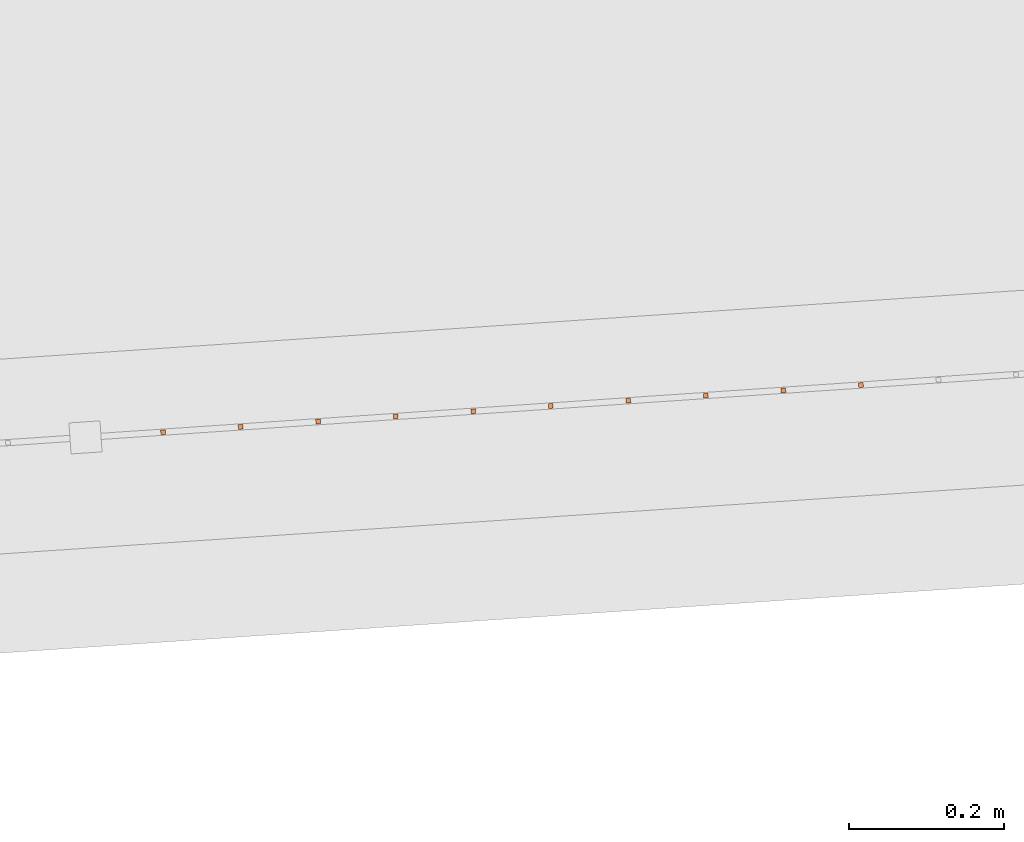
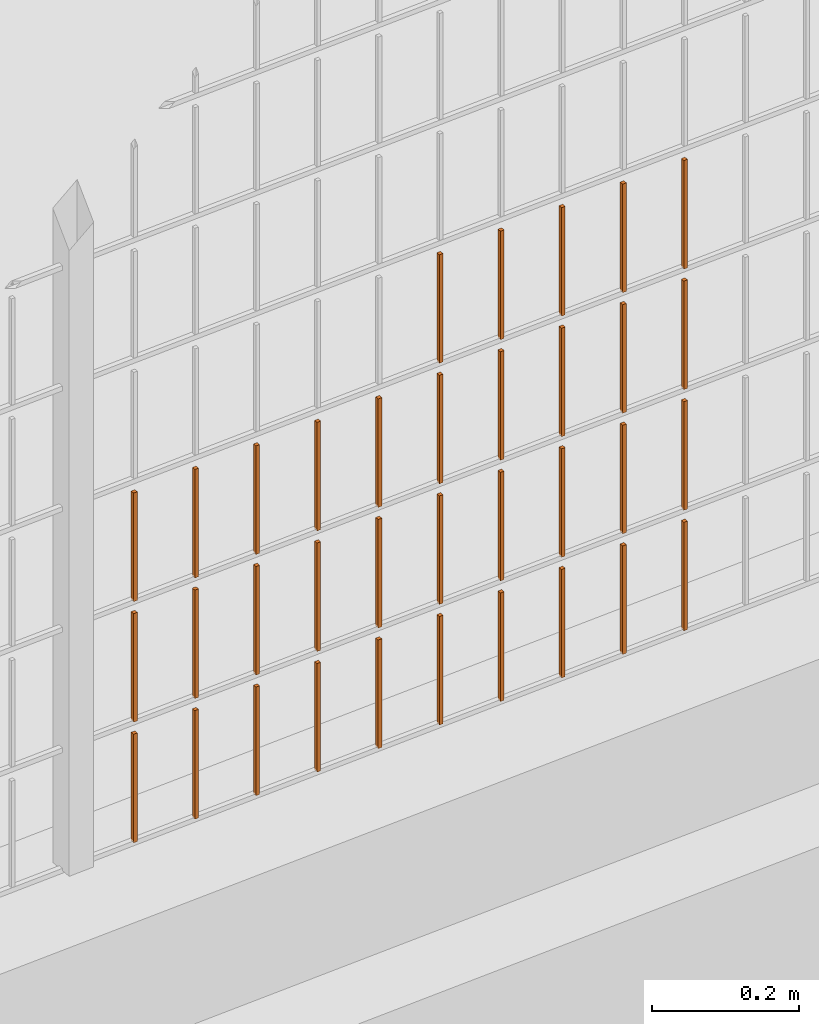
# One storey, part 292 of 1809: 35 proxies, 1 element without a shape of its own.
"""IFC2X3 building model written with IfcOpenShell, lengths in millimetres."""

from ifc_helpers import new_model, entity, si_unit, converted_unit, derived_unit, money_unit, direction, frame, origin_with_axes, place, context, subcontext, project, spatial, faceted_brep, source, transform, mapped, material, type_object, element, aggregate, save


model = new_model("IFC2X3")

# Units and contexts
model_context = context("Model", 3, precision=0.01, world=origin_with_axes(), true_north=direction((0.0, 1.0)))
body_context = subcontext(model_context, "Body", "Model", "MODEL_VIEW")
ifc_project = project(units=[si_unit("LENGTHUNIT", "METRE", prefix="MILLI"), si_unit("AREAUNIT", "SQUARE_METRE"), si_unit("VOLUMEUNIT", "CUBIC_METRE"), converted_unit("PLANEANGLEUNIT", "DEGREE", entity("IfcPlaneAngleMeasure", 0.0174532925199), si_unit("PLANEANGLEUNIT", "RADIAN"), dimensions=[0, 0, 0, 0, 0, 0, 0]), si_unit("SOLIDANGLEUNIT", "STERADIAN"), money_unit("EUR"), converted_unit("TIMEUNIT", "Year", entity("IfcTimeMeasure", 31556926.0), si_unit("TIMEUNIT", "SECOND"), dimensions=[0, 0, 1, 0, 0, 0, 0]), si_unit("MASSUNIT", "GRAM", prefix="KILO"), si_unit("THERMODYNAMICTEMPERATUREUNIT", "DEGREE_CELSIUS"), si_unit("LUMINOUSINTENSITYUNIT", "LUMEN"), si_unit("ENERGYUNIT", "JOULE", prefix="MEGA"), derived_unit("THERMALCONDUCTANCEUNIT", [(si_unit("POWERUNIT", "WATT"), 1), (si_unit("LENGTHUNIT", "METRE"), -1), (si_unit("THERMODYNAMICTEMPERATUREUNIT", "KELVIN"), -1)]), derived_unit("SPECIFICHEATCAPACITYUNIT", [(si_unit("ENERGYUNIT", "JOULE"), 1), (si_unit("MASSUNIT", "GRAM", prefix="KILO"), -1), (si_unit("THERMODYNAMICTEMPERATUREUNIT", "KELVIN"), -1)]), derived_unit("MASSDENSITYUNIT", [(si_unit("MASSUNIT", "GRAM", prefix="KILO"), 1), (si_unit("VOLUMEUNIT", "CUBIC_METRE"), -1)])], contexts=[model_context])

# Site, building, storey
site_placement = place(None, origin_with_axes())
site = spatial("IfcSite", under=ifc_project, at=site_placement, Name="Politse- ja Piirivalveameti ning Päästeameti ühishoone", CompositionType="ELEMENT")
building_placement = place(site_placement, origin_with_axes())
building = spatial("IfcBuilding", under=site, at=building_placement, Name="Politse- ja Piirivalveameti ning Päästeameti ühishoone", CompositionType="ELEMENT")
storey_placement = place(building_placement, origin_with_axes())
storey = spatial("IfcBuildingStorey", under=building, at=storey_placement, Name="Esimene korrus", CompositionType="ELEMENT", Elevation=0.0)

# Proxies
building_element_proxy_type_1 = type_object("IfcBuildingElementProxyType", Name="Railing Type", PredefinedType="NOTDEFINED")
proxy_1_placement = place(storey_placement, frame((89252.001212, -29183.4766571, 203.661247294), z_axis=(0.0, 0.0, 1.0), x_axis=(1.0, 0.0, 0.0)))
proxy_1 = element("IfcBuildingElementProxy", 1, at=proxy_1_placement, inside=storey, type_object=building_element_proxy_type_1, Name="PIIRDEAED")
ifc_material = material(Name="ET-03_Raud")
building_element_proxy_type_2 = type_object("IfcBuildingElementProxyType", Name="IfcBuildingElementProxy", PredefinedType="NOTDEFINED")
shared_shape_1 = source(origin_with_axes(), body_context, "Body", "Brep", [
    faceted_brep([(3.0, 3.0, -0.000752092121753), (-3.0, 3.0, -0.000752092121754), (-3.0, 3.0, 179.99926046), (3.0, 3.0, 179.99926046), (3.0, -3.0, 0.000752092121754), (-3.0, -3.0, 0.000752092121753), (-3.0, -3.0, 180.000764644), (3.0, -3.0, 180.000764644)], [[[0, 1, 2, 3]], [[0, 4, 5, 1]], [[1, 5, 6, 2]], [[3, 2, 6, 7]], [[4, 0, 3, 7]], [[5, 4, 7, 6]]]),
])
proxy_2_placement = place(proxy_1_placement, frame((-46720.2289101, -20453.5499087, 15.4950578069), z_axis=(0.0, 0.0, 1.0), x_axis=(1.0, 0.0, 0.0)))
proxy_2 = element("IfcBuildingElementProxy", 2, at=proxy_2_placement, type_object=building_element_proxy_type_2, material=ifc_material, Name="BALUSTER - 001", context=body_context, shape_type="MappedRepresentation", body=[
    mapped(shared_shape_1, transform((0.0, 0.0, 0.0), x_axis=(-0.0673926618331, 0.997726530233, 0.0), y_axis=(-0.997726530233, -0.0673926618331, 0.0), z_axis=(0.0, 0.0, 1.0))),
])
shared_shape_2 = source(origin_with_axes(), body_context, "Body", "Brep", [
    faceted_brep([(3.0, 3.0, -0.000752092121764), (-3.0, 3.0, -0.000752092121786), (-3.0, 3.0, 179.99926046), (3.0, 3.0, 179.99926046), (3.0, -3.0, 0.000752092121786), (-3.0, -3.0, 0.000752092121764), (-3.0, -3.0, 180.000764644), (3.0, -3.0, 180.000764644)], [[[0, 1, 2, 3]], [[0, 4, 5, 1]], [[1, 5, 6, 2]], [[3, 2, 6, 7]], [[4, 0, 3, 7]], [[5, 4, 7, 6]]]),
])
proxy_3_placement = place(proxy_1_placement, frame((-46420.910951, -20433.3321101, 15.5702670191), z_axis=(0.0, 0.0, 1.0), x_axis=(1.0, 0.0, 0.0)))
proxy_3 = element("IfcBuildingElementProxy", 3, at=proxy_3_placement, type_object=building_element_proxy_type_2, material=ifc_material, Name="BALUSTER - 001", context=body_context, shape_type="MappedRepresentation", body=[
    mapped(shared_shape_2, transform((0.0, 0.0, 0.0), x_axis=(-0.0673926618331, 0.997726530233, 0.0), y_axis=(-0.997726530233, -0.0673926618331, 0.0), z_axis=(0.0, 0.0, 1.0))),
])
shared_shape_3 = source(origin_with_axes(), body_context, "Body", "Brep", [
    faceted_brep([(3.0, 3.0, -0.000752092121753), (-3.0, 3.0, -0.000752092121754), (-3.0, 3.0, 179.99926046), (3.0, 3.0, 179.99926046), (3.0, -3.0, 0.000752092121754), (-3.0, -3.0, 0.000752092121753), (-3.0, -3.0, 180.000764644), (3.0, -3.0, 180.000764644)], [[[0, 1, 2, 3]], [[0, 4, 5, 1]], [[1, 5, 6, 2]], [[3, 2, 6, 7]], [[4, 0, 3, 7]], [[5, 4, 7, 6]]]),
])
proxy_4_placement = place(proxy_1_placement, frame((-46720.2289101, -20453.5499087, 415.495057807), z_axis=(0.0, 0.0, 1.0), x_axis=(1.0, 0.0, 0.0)))
proxy_4 = element("IfcBuildingElementProxy", 4, at=proxy_4_placement, type_object=building_element_proxy_type_2, material=ifc_material, Name="BALUSTER - 001", context=body_context, shape_type="MappedRepresentation", body=[
    mapped(shared_shape_3, transform((0.0, 0.0, 0.0), x_axis=(-0.0673926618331, 0.997726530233, 0.0), y_axis=(-0.997726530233, -0.0673926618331, 0.0), z_axis=(0.0, 0.0, 1.0))),
])
shared_shape_4 = source(origin_with_axes(), body_context, "Body", "Brep", [
    faceted_brep([(3.0, 3.0, -0.000752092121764), (-3.0, 3.0, -0.000752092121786), (-3.0, 3.0, 179.99926046), (3.0, 3.0, 179.99926046), (3.0, -3.0, 0.000752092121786), (-3.0, -3.0, 0.000752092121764), (-3.0, -3.0, 180.000764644), (3.0, -3.0, 180.000764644)], [[[0, 1, 2, 3]], [[0, 4, 5, 1]], [[1, 5, 6, 2]], [[3, 2, 6, 7]], [[4, 0, 3, 7]], [[5, 4, 7, 6]]]),
])
proxy_5_placement = place(proxy_1_placement, frame((-46820.0015631, -20460.2891749, 215.46998807), z_axis=(0.0, 0.0, 1.0), x_axis=(1.0, 0.0, 0.0)))
proxy_5 = element("IfcBuildingElementProxy", 5, at=proxy_5_placement, type_object=building_element_proxy_type_2, material=ifc_material, Name="BALUSTER - 001", context=body_context, shape_type="MappedRepresentation", body=[
    mapped(shared_shape_4, transform((0.0, 0.0, 0.0), x_axis=(-0.0673926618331, 0.997726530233, 0.0), y_axis=(-0.997726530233, -0.0673926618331, 0.0), z_axis=(0.0, 0.0, 1.0))),
])
proxy_6_placement = place(proxy_1_placement, frame((-46820.0015631, -20460.2891749, 415.46998807), z_axis=(0.0, 0.0, 1.0), x_axis=(1.0, 0.0, 0.0)))
proxy_6 = element("IfcBuildingElementProxy", 6, at=proxy_6_placement, type_object=building_element_proxy_type_2, material=ifc_material, Name="BALUSTER - 001", context=body_context, shape_type="MappedRepresentation", body=[
    mapped(shared_shape_4, transform((0.0, 0.0, 0.0), x_axis=(-0.0673926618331, 0.997726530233, 0.0), y_axis=(-0.997726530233, -0.0673926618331, 0.0), z_axis=(0.0, 0.0, 1.0))),
])
shared_shape_5 = source(origin_with_axes(), body_context, "Body", "Brep", [
    faceted_brep([(3.0, 3.0, -0.000752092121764), (-3.0, 3.0, -0.000752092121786), (-3.0, 3.0, 179.99926046), (3.0, 3.0, 179.99926046), (3.0, -3.0, 0.000752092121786), (-3.0, -3.0, 0.000752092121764), (-3.0, -3.0, 180.000764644), (3.0, -3.0, 180.000764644)], [[[0, 1, 2, 3]], [[0, 4, 5, 1]], [[1, 5, 6, 2]], [[3, 2, 6, 7]], [[4, 0, 3, 7]], [[5, 4, 7, 6]]]),
])
proxy_7_placement = place(proxy_1_placement, frame((-46420.910951, -20433.3321101, 215.570267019), z_axis=(0.0, 0.0, 1.0), x_axis=(1.0, 0.0, 0.0)))
proxy_7 = element("IfcBuildingElementProxy", 7, at=proxy_7_placement, type_object=building_element_proxy_type_2, material=ifc_material, Name="BALUSTER - 001", context=body_context, shape_type="MappedRepresentation", body=[
    mapped(shared_shape_5, transform((0.0, 0.0, 0.0), x_axis=(-0.0673926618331, 0.997726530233, 0.0), y_axis=(-0.997726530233, -0.0673926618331, 0.0), z_axis=(0.0, 0.0, 1.0))),
])
shared_shape_6 = source(origin_with_axes(), body_context, "Body", "Brep", [
    faceted_brep([(3.0, 3.0, -0.000752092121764), (-3.0, 3.0, -0.000752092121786), (-3.0, 3.0, 179.99926046), (3.0, 3.0, 179.99926046), (3.0, -3.0, 0.000752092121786), (-3.0, -3.0, 0.000752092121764), (-3.0, -3.0, 180.000764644), (3.0, -3.0, 180.000764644)], [[[0, 1, 2, 3]], [[0, 4, 5, 1]], [[1, 5, 6, 2]], [[3, 2, 6, 7]], [[4, 0, 3, 7]], [[5, 4, 7, 6]]]),
])
proxy_8_placement = place(proxy_1_placement, frame((-46520.683604, -20440.0713763, 415.545197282), z_axis=(0.0, 0.0, 1.0), x_axis=(1.0, 0.0, 0.0)))
proxy_8 = element("IfcBuildingElementProxy", 8, at=proxy_8_placement, type_object=building_element_proxy_type_2, material=ifc_material, Name="BALUSTER - 001", context=body_context, shape_type="MappedRepresentation", body=[
    mapped(shared_shape_6, transform((0.0, 0.0, 0.0), x_axis=(-0.0673926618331, 0.997726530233, 0.0), y_axis=(-0.997726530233, -0.0673926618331, 0.0), z_axis=(0.0, 0.0, 1.0))),
])
shared_shape_7 = source(origin_with_axes(), body_context, "Body", "Brep", [
    faceted_brep([(3.0, 3.0, -0.000752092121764), (-3.0, 3.0, -0.000752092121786), (-3.0, 3.0, 179.99926046), (3.0, 3.0, 179.99926046), (3.0, -3.0, 0.000752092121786), (-3.0, -3.0, 0.000752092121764), (-3.0, -3.0, 180.000764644), (3.0, -3.0, 180.000764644)], [[[0, 1, 2, 3]], [[0, 4, 5, 1]], [[1, 5, 6, 2]], [[3, 2, 6, 7]], [[4, 0, 3, 7]], [[5, 4, 7, 6]]]),
])
proxy_9_placement = place(proxy_1_placement, frame((-46420.910951, -20433.3321101, 415.570267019), z_axis=(0.0, 0.0, 1.0), x_axis=(1.0, 0.0, 0.0)))
proxy_9 = element("IfcBuildingElementProxy", 9, at=proxy_9_placement, type_object=building_element_proxy_type_2, material=ifc_material, Name="BALUSTER - 001", context=body_context, shape_type="MappedRepresentation", body=[
    mapped(shared_shape_7, transform((0.0, 0.0, 0.0), x_axis=(-0.0673926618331, 0.997726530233, 0.0), y_axis=(-0.997726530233, -0.0673926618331, 0.0), z_axis=(0.0, 0.0, 1.0))),
])
proxy_10_placement = place(proxy_1_placement, frame((-46420.910951, -20433.3321101, 615.570267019), z_axis=(0.0, 0.0, 1.0), x_axis=(1.0, 0.0, 0.0)))
proxy_10 = element("IfcBuildingElementProxy", 10, at=proxy_10_placement, type_object=building_element_proxy_type_2, material=ifc_material, Name="BALUSTER - 001", context=body_context, shape_type="MappedRepresentation", body=[
    mapped(shared_shape_7, transform((0.0, 0.0, 0.0), x_axis=(-0.0673926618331, 0.997726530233, 0.0), y_axis=(-0.997726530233, -0.0673926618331, 0.0), z_axis=(0.0, 0.0, 1.0))),
])
shared_shape_8 = source(origin_with_axes(), body_context, "Body", "Brep", [
    faceted_brep([(3.0, 3.0, -0.000752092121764), (-3.0, 3.0, -0.000752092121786), (-3.0, 3.0, 179.99926046), (3.0, 3.0, 179.99926046), (3.0, -3.0, 0.000752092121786), (-3.0, -3.0, 0.000752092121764), (-3.0, -3.0, 180.000764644), (3.0, -3.0, 180.000764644)], [[[0, 1, 2, 3]], [[0, 4, 5, 1]], [[1, 5, 6, 2]], [[3, 2, 6, 7]], [[4, 0, 3, 7]], [[5, 4, 7, 6]]]),
])
proxy_11_placement = place(proxy_1_placement, frame((-46520.683604, -20440.0713763, 615.545197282), z_axis=(0.0, 0.0, 1.0), x_axis=(1.0, 0.0, 0.0)))
proxy_11 = element("IfcBuildingElementProxy", 11, at=proxy_11_placement, type_object=building_element_proxy_type_2, material=ifc_material, Name="BALUSTER - 001", context=body_context, shape_type="MappedRepresentation", body=[
    mapped(shared_shape_8, transform((0.0, 0.0, 0.0), x_axis=(-0.0673926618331, 0.997726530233, 0.0), y_axis=(-0.997726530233, -0.0673926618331, 0.0), z_axis=(0.0, 0.0, 1.0))),
])
shared_shape_9 = source(origin_with_axes(), body_context, "Body", "Brep", [
    faceted_brep([(3.0, 3.0, -0.000752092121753), (-3.0, 3.0, -0.000752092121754), (-3.0, 3.0, 179.99926046), (3.0, 3.0, 179.99926046), (3.0, -3.0, 0.000752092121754), (-3.0, -3.0, 0.000752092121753), (-3.0, -3.0, 180.000764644), (3.0, -3.0, 180.000764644)], [[[0, 1, 2, 3]], [[0, 4, 5, 1]], [[1, 5, 6, 2]], [[3, 2, 6, 7]], [[4, 0, 3, 7]], [[5, 4, 7, 6]]]),
])
proxy_12_placement = place(proxy_1_placement, frame((-46720.2289101, -20453.5499087, 215.495057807), z_axis=(0.0, 0.0, 1.0), x_axis=(1.0, 0.0, 0.0)))
proxy_12 = element("IfcBuildingElementProxy", 12, at=proxy_12_placement, type_object=building_element_proxy_type_2, material=ifc_material, Name="BALUSTER - 001", context=body_context, shape_type="MappedRepresentation", body=[
    mapped(shared_shape_9, transform((0.0, 0.0, 0.0), x_axis=(-0.0673926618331, 0.997726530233, 0.0), y_axis=(-0.997726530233, -0.0673926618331, 0.0), z_axis=(0.0, 0.0, 1.0))),
])
shared_shape_10 = source(origin_with_axes(), body_context, "Body", "Brep", [
    faceted_brep([(3.0, 3.0, -0.000752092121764), (-3.0, 3.0, -0.000752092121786), (-3.0, 3.0, 179.99926046), (3.0, 3.0, 179.99926046), (3.0, -3.0, 0.000752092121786), (-3.0, -3.0, 0.000752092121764), (-3.0, -3.0, 180.000764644), (3.0, -3.0, 180.000764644)], [[[0, 1, 2, 3]], [[0, 4, 5, 1]], [[1, 5, 6, 2]], [[3, 2, 6, 7]], [[4, 0, 3, 7]], [[5, 4, 7, 6]]]),
])
proxy_13_placement = place(proxy_1_placement, frame((-46520.683604, -20440.0713763, 15.5451972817), z_axis=(0.0, 0.0, 1.0), x_axis=(1.0, 0.0, 0.0)))
proxy_13 = element("IfcBuildingElementProxy", 13, at=proxy_13_placement, type_object=building_element_proxy_type_2, material=ifc_material, Name="BALUSTER - 001", context=body_context, shape_type="MappedRepresentation", body=[
    mapped(shared_shape_10, transform((0.0, 0.0, 0.0), x_axis=(-0.0673926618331, 0.997726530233, 0.0), y_axis=(-0.997726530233, -0.0673926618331, 0.0), z_axis=(0.0, 0.0, 1.0))),
])
proxy_14_placement = place(proxy_1_placement, frame((-46520.683604, -20440.0713763, 215.545197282), z_axis=(0.0, 0.0, 1.0), x_axis=(1.0, 0.0, 0.0)))
proxy_14 = element("IfcBuildingElementProxy", 14, at=proxy_14_placement, type_object=building_element_proxy_type_2, material=ifc_material, Name="BALUSTER - 001", context=body_context, shape_type="MappedRepresentation", body=[
    mapped(shared_shape_10, transform((0.0, 0.0, 0.0), x_axis=(-0.0673926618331, 0.997726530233, 0.0), y_axis=(-0.997726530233, -0.0673926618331, 0.0), z_axis=(0.0, 0.0, 1.0))),
])
shared_shape_11 = source(origin_with_axes(), body_context, "Body", "Brep", [
    faceted_brep([(3.0, 3.0, -0.000752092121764), (-3.0, 3.0, -0.000752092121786), (-3.0, 3.0, 179.99926046), (3.0, 3.0, 179.99926046), (3.0, -3.0, 0.000752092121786), (-3.0, -3.0, 0.000752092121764), (-3.0, -3.0, 180.000764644), (3.0, -3.0, 180.000764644)], [[[0, 1, 2, 3]], [[0, 4, 5, 1]], [[1, 5, 6, 2]], [[3, 2, 6, 7]], [[4, 0, 3, 7]], [[5, 4, 7, 6]]]),
])
proxy_15_placement = place(proxy_1_placement, frame((-46820.0015631, -20460.2891749, 15.4699880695), z_axis=(0.0, 0.0, 1.0), x_axis=(1.0, 0.0, 0.0)))
proxy_15 = element("IfcBuildingElementProxy", 15, at=proxy_15_placement, type_object=building_element_proxy_type_2, material=ifc_material, Name="BALUSTER - 001", context=body_context, shape_type="MappedRepresentation", body=[
    mapped(shared_shape_11, transform((0.0, 0.0, 0.0), x_axis=(-0.0673926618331, 0.997726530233, 0.0), y_axis=(-0.997726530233, -0.0673926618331, 0.0), z_axis=(0.0, 0.0, 1.0))),
])
shared_shape_12 = source(origin_with_axes(), body_context, "Body", "Brep", [
    faceted_brep([(3.0, 3.0, -0.000752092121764), (-3.0, 3.0, -0.000752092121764), (-3.0, 3.0, 179.99926046), (3.0, 3.0, 179.99926046), (3.0, -3.0, 0.000752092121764), (-3.0, -3.0, 0.000752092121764), (-3.0, -3.0, 180.000764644), (3.0, -3.0, 180.000764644)], [[[0, 1, 2, 3]], [[0, 4, 5, 1]], [[1, 5, 6, 2]], [[3, 2, 6, 7]], [[4, 0, 3, 7]], [[5, 4, 7, 6]]]),
])
proxy_16_placement = place(proxy_1_placement, frame((-46221.365645, -20419.8535778, 615.620406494), z_axis=(0.0, 0.0, 1.0), x_axis=(1.0, 0.0, 0.0)))
proxy_16 = element("IfcBuildingElementProxy", 16, at=proxy_16_placement, type_object=building_element_proxy_type_2, material=ifc_material, Name="BALUSTER - 001", context=body_context, shape_type="MappedRepresentation", body=[
    mapped(shared_shape_12, transform((0.0, 0.0, 0.0), x_axis=(-0.0673926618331, 0.997726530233, 0.0), y_axis=(-0.997726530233, -0.0673926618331, 0.0), z_axis=(0.0, 0.0, 1.0))),
])
shared_shape_13 = source(origin_with_axes(), body_context, "Body", "Brep", [
    faceted_brep([(3.0, 3.0, -0.000752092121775), (-3.0, 3.0, -0.000752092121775), (-3.0, 3.0, 179.99926046), (3.0, 3.0, 179.99926046), (3.0, -3.0, 0.000752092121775), (-3.0, -3.0, 0.000752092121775), (-3.0, -3.0, 180.000764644), (3.0, -3.0, 180.000764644)], [[[0, 1, 2, 3]], [[0, 4, 5, 1]], [[1, 5, 6, 2]], [[3, 2, 6, 7]], [[4, 0, 3, 7]], [[5, 4, 7, 6]]]),
])
proxy_17_placement = place(proxy_1_placement, frame((-47119.3195222, -20480.5069734, 15.3947788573), z_axis=(0.0, 0.0, 1.0), x_axis=(1.0, 0.0, 0.0)))
proxy_17 = element("IfcBuildingElementProxy", 17, at=proxy_17_placement, type_object=building_element_proxy_type_2, material=ifc_material, Name="BALUSTER - 001", context=body_context, shape_type="MappedRepresentation", body=[
    mapped(shared_shape_13, transform((0.0, 0.0, 0.0), x_axis=(-0.0673926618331, 0.997726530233, 0.0), y_axis=(-0.997726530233, -0.0673926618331, 0.0), z_axis=(0.0, 0.0, 1.0))),
])
proxy_18_placement = place(proxy_1_placement, frame((-47119.3195222, -20480.5069734, 215.394778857), z_axis=(0.0, 0.0, 1.0), x_axis=(1.0, 0.0, 0.0)))
proxy_18 = element("IfcBuildingElementProxy", 18, at=proxy_18_placement, type_object=building_element_proxy_type_2, material=ifc_material, Name="BALUSTER - 001", context=body_context, shape_type="MappedRepresentation", body=[
    mapped(shared_shape_13, transform((0.0, 0.0, 0.0), x_axis=(-0.0673926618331, 0.997726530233, 0.0), y_axis=(-0.997726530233, -0.0673926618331, 0.0), z_axis=(0.0, 0.0, 1.0))),
])
shared_shape_14 = source(origin_with_axes(), body_context, "Body", "Brep", [
    faceted_brep([(3.0, 3.0, -0.000752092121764), (-3.0, 3.0, -0.000752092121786), (-3.0, 3.0, 179.99926046), (3.0, 3.0, 179.99926046), (3.0, -3.0, 0.000752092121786), (-3.0, -3.0, 0.000752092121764), (-3.0, -3.0, 180.000764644), (3.0, -3.0, 180.000764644)], [[[0, 1, 2, 3]], [[0, 4, 5, 1]], [[1, 5, 6, 2]], [[3, 2, 6, 7]], [[4, 0, 3, 7]], [[5, 4, 7, 6]]]),
])
proxy_19_placement = place(proxy_1_placement, frame((-46620.4562571, -20446.8106425, 15.5201275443), z_axis=(0.0, 0.0, 1.0), x_axis=(1.0, 0.0, 0.0)))
proxy_19 = element("IfcBuildingElementProxy", 19, at=proxy_19_placement, type_object=building_element_proxy_type_2, material=ifc_material, Name="BALUSTER - 001", context=body_context, shape_type="MappedRepresentation", body=[
    mapped(shared_shape_14, transform((0.0, 0.0, 0.0), x_axis=(-0.0673926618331, 0.997726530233, 0.0), y_axis=(-0.997726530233, -0.0673926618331, 0.0), z_axis=(0.0, 0.0, 1.0))),
])
proxy_20_placement = place(proxy_1_placement, frame((-46620.4562571, -20446.8106425, 215.520127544), z_axis=(0.0, 0.0, 1.0), x_axis=(1.0, 0.0, 0.0)))
proxy_20 = element("IfcBuildingElementProxy", 20, at=proxy_20_placement, type_object=building_element_proxy_type_2, material=ifc_material, Name="BALUSTER - 001", context=body_context, shape_type="MappedRepresentation", body=[
    mapped(shared_shape_14, transform((0.0, 0.0, 0.0), x_axis=(-0.0673926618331, 0.997726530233, 0.0), y_axis=(-0.997726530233, -0.0673926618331, 0.0), z_axis=(0.0, 0.0, 1.0))),
])
shared_shape_15 = source(origin_with_axes(), body_context, "Body", "Brep", [
    faceted_brep([(3.0, 3.0, -0.000752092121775), (-3.0, 3.0, -0.000752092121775), (-3.0, 3.0, 179.99926046), (3.0, 3.0, 179.99926046), (3.0, -3.0, 0.000752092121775), (-3.0, -3.0, 0.000752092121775), (-3.0, -3.0, 180.000764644), (3.0, -3.0, 180.000764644)], [[[0, 1, 2, 3]], [[0, 4, 5, 1]], [[1, 5, 6, 2]], [[3, 2, 6, 7]], [[4, 0, 3, 7]], [[5, 4, 7, 6]]]),
])
proxy_21_placement = place(proxy_1_placement, frame((-47119.3195222, -20480.5069734, 415.394778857), z_axis=(0.0, 0.0, 1.0), x_axis=(1.0, 0.0, 0.0)))
proxy_21 = element("IfcBuildingElementProxy", 21, at=proxy_21_placement, type_object=building_element_proxy_type_2, material=ifc_material, Name="BALUSTER - 001", context=body_context, shape_type="MappedRepresentation", body=[
    mapped(shared_shape_15, transform((0.0, 0.0, 0.0), x_axis=(-0.0673926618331, 0.997726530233, 0.0), y_axis=(-0.997726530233, -0.0673926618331, 0.0), z_axis=(0.0, 0.0, 1.0))),
])
shared_shape_16 = source(origin_with_axes(), body_context, "Body", "Brep", [
    faceted_brep([(3.0, 3.0, -0.000752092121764), (-3.0, 3.0, -0.000752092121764), (-3.0, 3.0, 179.99926046), (3.0, 3.0, 179.99926046), (3.0, -3.0, 0.000752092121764), (-3.0, -3.0, 0.000752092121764), (-3.0, -3.0, 180.000764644), (3.0, -3.0, 180.000764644)], [[[0, 1, 2, 3]], [[0, 4, 5, 1]], [[1, 5, 6, 2]], [[3, 2, 6, 7]], [[4, 0, 3, 7]], [[5, 4, 7, 6]]]),
])
proxy_22_placement = place(proxy_1_placement, frame((-46221.365645, -20419.8535778, 215.620406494), z_axis=(0.0, 0.0, 1.0), x_axis=(1.0, 0.0, 0.0)))
proxy_22 = element("IfcBuildingElementProxy", 22, at=proxy_22_placement, type_object=building_element_proxy_type_2, material=ifc_material, Name="BALUSTER - 001", context=body_context, shape_type="MappedRepresentation", body=[
    mapped(shared_shape_16, transform((0.0, 0.0, 0.0), x_axis=(-0.0673926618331, 0.997726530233, 0.0), y_axis=(-0.997726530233, -0.0673926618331, 0.0), z_axis=(0.0, 0.0, 1.0))),
])
proxy_23_placement = place(proxy_1_placement, frame((-46919.7742161, -20467.0284411, 215.444918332), z_axis=(0.0, 0.0, 1.0), x_axis=(1.0, 0.0, 0.0)))
proxy_23 = element("IfcBuildingElementProxy", 23, at=proxy_23_placement, type_object=building_element_proxy_type_2, material=ifc_material, Name="BALUSTER - 001", context=body_context, shape_type="MappedRepresentation", body=[
    mapped(shared_shape_16, transform((0.0, 0.0, 0.0), x_axis=(-0.0673926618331, 0.997726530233, 0.0), y_axis=(-0.997726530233, -0.0673926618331, 0.0), z_axis=(0.0, 0.0, 1.0))),
])
proxy_24_placement = place(proxy_1_placement, frame((-47019.5468692, -20473.7677072, 415.419848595), z_axis=(0.0, 0.0, 1.0), x_axis=(1.0, 0.0, 0.0)))
proxy_24 = element("IfcBuildingElementProxy", 24, at=proxy_24_placement, type_object=building_element_proxy_type_2, material=ifc_material, Name="BALUSTER - 001", context=body_context, shape_type="MappedRepresentation", body=[
    mapped(shared_shape_16, transform((0.0, 0.0, 0.0), x_axis=(-0.0673926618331, 0.997726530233, 0.0), y_axis=(-0.997726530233, -0.0673926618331, 0.0), z_axis=(0.0, 0.0, 1.0))),
])
shared_shape_17 = source(origin_with_axes(), body_context, "Body", "Brep", [
    faceted_brep([(3.0, 3.0, -0.000752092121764), (-3.0, 3.0, -0.000752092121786), (-3.0, 3.0, 179.99926046), (3.0, 3.0, 179.99926046), (3.0, -3.0, 0.000752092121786), (-3.0, -3.0, 0.000752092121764), (-3.0, -3.0, 180.000764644), (3.0, -3.0, 180.000764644)], [[[0, 1, 2, 3]], [[0, 4, 5, 1]], [[1, 5, 6, 2]], [[3, 2, 6, 7]], [[4, 0, 3, 7]], [[5, 4, 7, 6]]]),
])
proxy_25_placement = place(proxy_1_placement, frame((-46620.4562571, -20446.8106425, 415.520127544), z_axis=(0.0, 0.0, 1.0), x_axis=(1.0, 0.0, 0.0)))
proxy_25 = element("IfcBuildingElementProxy", 25, at=proxy_25_placement, type_object=building_element_proxy_type_2, material=ifc_material, Name="BALUSTER - 001", context=body_context, shape_type="MappedRepresentation", body=[
    mapped(shared_shape_17, transform((0.0, 0.0, 0.0), x_axis=(-0.0673926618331, 0.997726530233, 0.0), y_axis=(-0.997726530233, -0.0673926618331, 0.0), z_axis=(0.0, 0.0, 1.0))),
])
shared_shape_18 = source(origin_with_axes(), body_context, "Body", "Brep", [
    faceted_brep([(3.0, 3.0, -0.000752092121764), (-3.0, 3.0, -0.000752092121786), (-3.0, 3.0, 179.99926046), (3.0, 3.0, 179.99926046), (3.0, -3.0, 0.000752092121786), (-3.0, -3.0, 0.000752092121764), (-3.0, -3.0, 180.000764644), (3.0, -3.0, 180.000764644)], [[[0, 1, 2, 3]], [[0, 4, 5, 1]], [[1, 5, 6, 2]], [[3, 2, 6, 7]], [[4, 0, 3, 7]], [[5, 4, 7, 6]]]),
])
proxy_26_placement = place(proxy_1_placement, frame((-46620.4562571, -20446.8106425, 615.520127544), z_axis=(0.0, 0.0, 1.0), x_axis=(1.0, 0.0, 0.0)))
proxy_26 = element("IfcBuildingElementProxy", 26, at=proxy_26_placement, type_object=building_element_proxy_type_2, material=ifc_material, Name="BALUSTER - 001", context=body_context, shape_type="MappedRepresentation", body=[
    mapped(shared_shape_18, transform((0.0, 0.0, 0.0), x_axis=(-0.0673926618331, 0.997726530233, 0.0), y_axis=(-0.997726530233, -0.0673926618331, 0.0), z_axis=(0.0, 0.0, 1.0))),
])
shared_shape_19 = source(origin_with_axes(), body_context, "Body", "Brep", [
    faceted_brep([(3.0, 3.0, -0.000752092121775), (-3.0, 3.0, -0.000752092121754), (-3.0, 3.0, 179.99926046), (3.0, 3.0, 179.99926046), (3.0, -3.0, 0.000752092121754), (-3.0, -3.0, 0.000752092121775), (-3.0, -3.0, 180.000764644), (3.0, -3.0, 180.000764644)], [[[0, 1, 2, 3]], [[0, 4, 5, 1]], [[1, 5, 6, 2]], [[3, 2, 6, 7]], [[4, 0, 3, 7]], [[5, 4, 7, 6]]]),
])
proxy_27_placement = place(proxy_1_placement, frame((-46321.138298, -20426.592844, 215.595336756), z_axis=(0.0, 0.0, 1.0), x_axis=(1.0, 0.0, 0.0)))
proxy_27 = element("IfcBuildingElementProxy", 27, at=proxy_27_placement, type_object=building_element_proxy_type_2, material=ifc_material, Name="BALUSTER - 001", context=body_context, shape_type="MappedRepresentation", body=[
    mapped(shared_shape_19, transform((0.0, 0.0, 0.0), x_axis=(-0.0673926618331, 0.997726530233, 0.0), y_axis=(-0.997726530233, -0.0673926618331, 0.0), z_axis=(0.0, 0.0, 1.0))),
])
proxy_28_placement = place(proxy_1_placement, frame((-46321.138298, -20426.592844, 415.595336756), z_axis=(0.0, 0.0, 1.0), x_axis=(1.0, 0.0, 0.0)))
proxy_28 = element("IfcBuildingElementProxy", 28, at=proxy_28_placement, type_object=building_element_proxy_type_2, material=ifc_material, Name="BALUSTER - 001", context=body_context, shape_type="MappedRepresentation", body=[
    mapped(shared_shape_19, transform((0.0, 0.0, 0.0), x_axis=(-0.0673926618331, 0.997726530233, 0.0), y_axis=(-0.997726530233, -0.0673926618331, 0.0), z_axis=(0.0, 0.0, 1.0))),
])
shared_shape_20 = source(origin_with_axes(), body_context, "Body", "Brep", [
    faceted_brep([(3.0, 3.0, -0.000752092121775), (-3.0, 3.0, -0.000752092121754), (-3.0, 3.0, 179.99926046), (3.0, 3.0, 179.99926046), (3.0, -3.0, 0.000752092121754), (-3.0, -3.0, 0.000752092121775), (-3.0, -3.0, 180.000764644), (3.0, -3.0, 180.000764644)], [[[0, 1, 2, 3]], [[0, 4, 5, 1]], [[1, 5, 6, 2]], [[3, 2, 6, 7]], [[4, 0, 3, 7]], [[5, 4, 7, 6]]]),
])
proxy_29_placement = place(proxy_1_placement, frame((-46321.138298, -20426.592844, 615.595336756), z_axis=(0.0, 0.0, 1.0), x_axis=(1.0, 0.0, 0.0)))
proxy_29 = element("IfcBuildingElementProxy", 29, at=proxy_29_placement, type_object=building_element_proxy_type_2, material=ifc_material, Name="BALUSTER - 001", context=body_context, shape_type="MappedRepresentation", body=[
    mapped(shared_shape_20, transform((0.0, 0.0, 0.0), x_axis=(-0.0673926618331, 0.997726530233, 0.0), y_axis=(-0.997726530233, -0.0673926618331, 0.0), z_axis=(0.0, 0.0, 1.0))),
])
shared_shape_21 = source(origin_with_axes(), body_context, "Body", "Brep", [
    faceted_brep([(3.0, 3.0, -0.000752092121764), (-3.0, 3.0, -0.000752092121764), (-3.0, 3.0, 179.99926046), (3.0, 3.0, 179.99926046), (3.0, -3.0, 0.000752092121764), (-3.0, -3.0, 0.000752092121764), (-3.0, -3.0, 180.000764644), (3.0, -3.0, 180.000764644)], [[[0, 1, 2, 3]], [[0, 4, 5, 1]], [[1, 5, 6, 2]], [[3, 2, 6, 7]], [[4, 0, 3, 7]], [[5, 4, 7, 6]]]),
])
proxy_30_placement = place(proxy_1_placement, frame((-47019.5468692, -20473.7677072, 15.4198485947), z_axis=(0.0, 0.0, 1.0), x_axis=(1.0, 0.0, 0.0)))
proxy_30 = element("IfcBuildingElementProxy", 30, at=proxy_30_placement, type_object=building_element_proxy_type_2, material=ifc_material, Name="BALUSTER - 001", context=body_context, shape_type="MappedRepresentation", body=[
    mapped(shared_shape_21, transform((0.0, 0.0, 0.0), x_axis=(-0.0673926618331, 0.997726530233, 0.0), y_axis=(-0.997726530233, -0.0673926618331, 0.0), z_axis=(0.0, 0.0, 1.0))),
])
shared_shape_22 = source(origin_with_axes(), body_context, "Body", "Brep", [
    faceted_brep([(3.0, 3.0, -0.000752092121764), (-3.0, 3.0, -0.000752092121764), (-3.0, 3.0, 179.99926046), (3.0, 3.0, 179.99926046), (3.0, -3.0, 0.000752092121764), (-3.0, -3.0, 0.000752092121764), (-3.0, -3.0, 180.000764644), (3.0, -3.0, 180.000764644)], [[[0, 1, 2, 3]], [[0, 4, 5, 1]], [[1, 5, 6, 2]], [[3, 2, 6, 7]], [[4, 0, 3, 7]], [[5, 4, 7, 6]]]),
])
proxy_31_placement = place(proxy_1_placement, frame((-47019.5468692, -20473.7677072, 215.419848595), z_axis=(0.0, 0.0, 1.0), x_axis=(1.0, 0.0, 0.0)))
proxy_31 = element("IfcBuildingElementProxy", 31, at=proxy_31_placement, type_object=building_element_proxy_type_2, material=ifc_material, Name="BALUSTER - 001", context=body_context, shape_type="MappedRepresentation", body=[
    mapped(shared_shape_22, transform((0.0, 0.0, 0.0), x_axis=(-0.0673926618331, 0.997726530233, 0.0), y_axis=(-0.997726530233, -0.0673926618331, 0.0), z_axis=(0.0, 0.0, 1.0))),
])
shared_shape_23 = source(origin_with_axes(), body_context, "Body", "Brep", [
    faceted_brep([(3.0, 3.0, -0.000752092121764), (-3.0, 3.0, -0.000752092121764), (-3.0, 3.0, 179.99926046), (3.0, 3.0, 179.99926046), (3.0, -3.0, 0.000752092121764), (-3.0, -3.0, 0.000752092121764), (-3.0, -3.0, 180.000764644), (3.0, -3.0, 180.000764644)], [[[0, 1, 2, 3]], [[0, 4, 5, 1]], [[1, 5, 6, 2]], [[3, 2, 6, 7]], [[4, 0, 3, 7]], [[5, 4, 7, 6]]]),
])
proxy_32_placement = place(proxy_1_placement, frame((-46221.365645, -20419.8535778, 415.620406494), z_axis=(0.0, 0.0, 1.0), x_axis=(1.0, 0.0, 0.0)))
proxy_32 = element("IfcBuildingElementProxy", 32, at=proxy_32_placement, type_object=building_element_proxy_type_2, material=ifc_material, Name="BALUSTER - 001", context=body_context, shape_type="MappedRepresentation", body=[
    mapped(shared_shape_23, transform((0.0, 0.0, 0.0), x_axis=(-0.0673926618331, 0.997726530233, 0.0), y_axis=(-0.997726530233, -0.0673926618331, 0.0), z_axis=(0.0, 0.0, 1.0))),
])
proxy_33_placement = place(proxy_1_placement, frame((-46919.7742161, -20467.0284411, 415.444918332), z_axis=(0.0, 0.0, 1.0), x_axis=(1.0, 0.0, 0.0)))
proxy_33 = element("IfcBuildingElementProxy", 33, at=proxy_33_placement, type_object=building_element_proxy_type_2, material=ifc_material, Name="BALUSTER - 001", context=body_context, shape_type="MappedRepresentation", body=[
    mapped(shared_shape_23, transform((0.0, 0.0, 0.0), x_axis=(-0.0673926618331, 0.997726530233, 0.0), y_axis=(-0.997726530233, -0.0673926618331, 0.0), z_axis=(0.0, 0.0, 1.0))),
])
shared_shape_24 = source(origin_with_axes(), body_context, "Body", "Brep", [
    faceted_brep([(3.0, 3.0, -0.000752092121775), (-3.0, 3.0, -0.000752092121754), (-3.0, 3.0, 179.99926046), (3.0, 3.0, 179.99926046), (3.0, -3.0, 0.000752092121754), (-3.0, -3.0, 0.000752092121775), (-3.0, -3.0, 180.000764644), (3.0, -3.0, 180.000764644)], [[[0, 1, 2, 3]], [[0, 4, 5, 1]], [[1, 5, 6, 2]], [[3, 2, 6, 7]], [[4, 0, 3, 7]], [[5, 4, 7, 6]]]),
])
proxy_34_placement = place(proxy_1_placement, frame((-46321.138298, -20426.592844, 15.5953367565), z_axis=(0.0, 0.0, 1.0), x_axis=(1.0, 0.0, 0.0)))
proxy_34 = element("IfcBuildingElementProxy", 34, at=proxy_34_placement, type_object=building_element_proxy_type_2, material=ifc_material, Name="BALUSTER - 001", context=body_context, shape_type="MappedRepresentation", body=[
    mapped(shared_shape_24, transform((0.0, 0.0, 0.0), x_axis=(-0.0673926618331, 0.997726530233, 0.0), y_axis=(-0.997726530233, -0.0673926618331, 0.0), z_axis=(0.0, 0.0, 1.0))),
])
shared_shape_25 = source(origin_with_axes(), body_context, "Body", "Brep", [
    faceted_brep([(3.0, 3.0, -0.000752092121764), (-3.0, 3.0, -0.000752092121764), (-3.0, 3.0, 179.99926046), (3.0, 3.0, 179.99926046), (3.0, -3.0, 0.000752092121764), (-3.0, -3.0, 0.000752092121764), (-3.0, -3.0, 180.000764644), (3.0, -3.0, 180.000764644)], [[[0, 1, 2, 3]], [[0, 4, 5, 1]], [[1, 5, 6, 2]], [[3, 2, 6, 7]], [[4, 0, 3, 7]], [[5, 4, 7, 6]]]),
])
proxy_35_placement = place(proxy_1_placement, frame((-46221.365645, -20419.8535778, 15.6204064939), z_axis=(0.0, 0.0, 1.0), x_axis=(1.0, 0.0, 0.0)))
proxy_35 = element("IfcBuildingElementProxy", 35, at=proxy_35_placement, type_object=building_element_proxy_type_2, material=ifc_material, Name="BALUSTER - 001", context=body_context, shape_type="MappedRepresentation", body=[
    mapped(shared_shape_25, transform((0.0, 0.0, 0.0), x_axis=(-0.0673926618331, 0.997726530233, 0.0), y_axis=(-0.997726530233, -0.0673926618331, 0.0), z_axis=(0.0, 0.0, 1.0))),
])
proxy_36_placement = place(proxy_1_placement, frame((-46919.7742161, -20467.0284411, 15.4449183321), z_axis=(0.0, 0.0, 1.0), x_axis=(1.0, 0.0, 0.0)))
proxy_36 = element("IfcBuildingElementProxy", 36, at=proxy_36_placement, type_object=building_element_proxy_type_2, material=ifc_material, Name="BALUSTER - 001", context=body_context, shape_type="MappedRepresentation", body=[
    mapped(shared_shape_25, transform((0.0, 0.0, 0.0), x_axis=(-0.0673926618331, 0.997726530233, 0.0), y_axis=(-0.997726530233, -0.0673926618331, 0.0), z_axis=(0.0, 0.0, 1.0))),
])
aggregate(proxy_1, [proxy_35, proxy_34, proxy_3, proxy_13, proxy_19, proxy_2, proxy_15, proxy_36, proxy_30, proxy_17, proxy_22, proxy_27, proxy_7, proxy_14, proxy_20, proxy_12, proxy_5, proxy_23, proxy_31, proxy_18, proxy_32, proxy_28, proxy_9, proxy_8, proxy_25, proxy_4, proxy_6, proxy_33, proxy_24, proxy_21, proxy_16, proxy_29, proxy_10, proxy_11, proxy_26])

save(model, "model.ifc")
